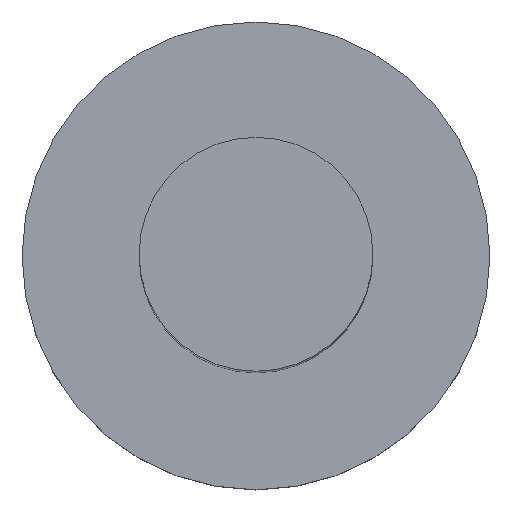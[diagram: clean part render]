
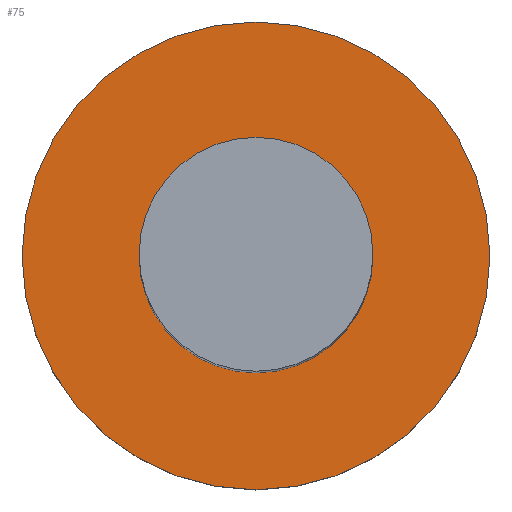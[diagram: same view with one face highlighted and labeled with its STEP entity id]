
A CAD part, top view. The second image highlights one B-rep face of the part: STEP entity #75.
In plain terms, the highlighted planar face has unit normal (0, 0, 1).
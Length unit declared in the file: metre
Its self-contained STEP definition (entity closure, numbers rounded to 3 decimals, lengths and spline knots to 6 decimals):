
#12=PLANE('',#99);
#20=ORIENTED_EDGE('',*,*,#32,.F.);
#21=ORIENTED_EDGE('',*,*,#30,.T.);
#30=EDGE_CURVE('',#36,#36,#42,.T.);
#32=EDGE_CURVE('',#38,#38,#44,.T.);
#36=VERTEX_POINT('',#142);
#38=VERTEX_POINT('',#147);
#42=CIRCLE('',#97,0.002);
#44=CIRCLE('',#100,0.001);
#50=EDGE_LOOP('',(#20));
#51=EDGE_LOOP('',(#21));
#62=FACE_BOUND('',#50,.T.);
#63=FACE_BOUND('',#51,.T.);
#75=ADVANCED_FACE('',(#62,#63),#12,.T.);
#97=AXIS2_PLACEMENT_3D('',#141,#116,#117);
#99=AXIS2_PLACEMENT_3D('',#145,#120,#121);
#100=AXIS2_PLACEMENT_3D('',#146,#122,#123);
#116=DIRECTION('',(0.,0.,1.));
#117=DIRECTION('',(1.,0.,0.));
#120=DIRECTION('',(0.,0.,1.));
#121=DIRECTION('',(1.,0.,0.));
#122=DIRECTION('',(0.,0.,1.));
#123=DIRECTION('',(1.,0.,0.));
#141=CARTESIAN_POINT('',(0.,0.,0.0008));
#142=CARTESIAN_POINT('',(0.002,0.,0.0008));
#145=CARTESIAN_POINT('',(0.,0.,0.0008));
#146=CARTESIAN_POINT('',(0.,0.,0.0008));
#147=CARTESIAN_POINT('',(0.001,0.,0.0008));
